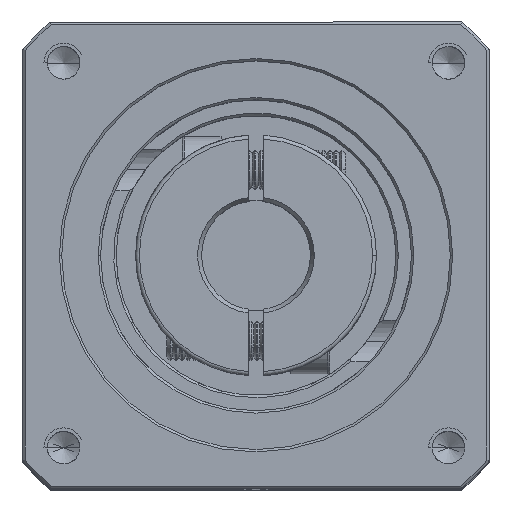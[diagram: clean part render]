
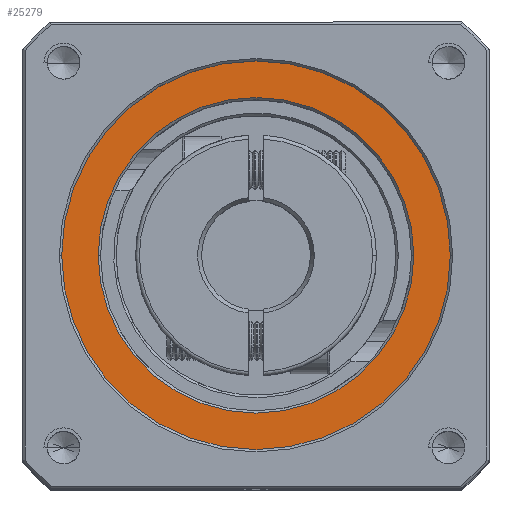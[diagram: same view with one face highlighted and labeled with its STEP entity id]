
A CAD part, top view. The second image highlights one B-rep face of the part: STEP entity #25279.
In plain terms, the highlighted planar face has unit normal (0, 0, 1).
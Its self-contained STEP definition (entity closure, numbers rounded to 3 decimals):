
#483 = EDGE_CURVE ( 'NONE', #69494, #32316, #69098, .T. ) ;
#498 = EDGE_LOOP ( 'NONE', ( #14369, #56297 ) ) ;
#4267 = CARTESIAN_POINT ( 'NONE',  ( -79.979, 25.271, 13.438 ) ) ;
#7106 = CARTESIAN_POINT ( 'NONE',  ( -59.679, 25.271, 13.438 ) ) ;
#7829 = EDGE_LOOP ( 'NONE', ( #49707, #15417 ) ) ;
#8766 = DIRECTION ( 'NONE',  ( 1., 0., 0. ) ) ;
#8817 = FACE_BOUND ( 'NONE', #498, .T. ) ;
#10689 = AXIS2_PLACEMENT_3D ( 'NONE', #84591, #58061, #50722 ) ;
#11418 = EDGE_CURVE ( 'NONE', #32316, #69494, #76535, .T. ) ;
#14369 = ORIENTED_EDGE ( 'NONE', *, *, #11418, .T. ) ;
#15417 = ORIENTED_EDGE ( 'NONE', *, *, #96360, .T. ) ;
#23863 = AXIS2_PLACEMENT_3D ( 'NONE', #102291, #84188, #8766 ) ;
#25279 = ADVANCED_FACE ( 'NONE', ( #8817, #48299 ), #104770, .T. ) ;
#27392 = CARTESIAN_POINT ( 'NONE',  ( -39.379, 25.271, 13.438 ) ) ;
#32316 = VERTEX_POINT ( 'NONE', #27392 ) ;
#32625 = CIRCLE ( 'NONE', #23863, 25. ) ;
#48210 = AXIS2_PLACEMENT_3D ( 'NONE', #85581, #93977, #86634 ) ;
#48299 = FACE_OUTER_BOUND ( 'NONE', #7829, .T. ) ;
#49422 = DIRECTION ( 'NONE',  ( 1., 0., 0. ) ) ;
#49707 = ORIENTED_EDGE ( 'NONE', *, *, #88048, .T. ) ;
#50532 = CARTESIAN_POINT ( 'NONE',  ( -84.679, 25.271, 13.438 ) ) ;
#50722 = DIRECTION ( 'NONE',  ( 1., 0., 0. ) ) ;
#56297 = ORIENTED_EDGE ( 'NONE', *, *, #483, .T. ) ;
#58061 = DIRECTION ( 'NONE',  ( 0., 0., -1. ) ) ;
#61605 = CARTESIAN_POINT ( 'NONE',  ( -59.679, 25.271, 13.438 ) ) ;
#62333 = DIRECTION ( 'NONE',  ( 0., 0., 1. ) ) ;
#67464 = DIRECTION ( 'NONE',  ( 0., 0., 1. ) ) ;
#69098 = CIRCLE ( 'NONE', #48210, 20.3 ) ;
#69494 = VERTEX_POINT ( 'NONE', #4267 ) ;
#71522 = DIRECTION ( 'NONE',  ( 1., 0., 0. ) ) ;
#76535 = CIRCLE ( 'NONE', #10689, 20.3 ) ;
#78474 = AXIS2_PLACEMENT_3D ( 'NONE', #7106, #67464, #49422 ) ;
#84188 = DIRECTION ( 'NONE',  ( 0., 0., 1. ) ) ;
#84591 = CARTESIAN_POINT ( 'NONE',  ( -59.679, 25.271, 13.438 ) ) ;
#85581 = CARTESIAN_POINT ( 'NONE',  ( -59.679, 25.271, 13.438 ) ) ;
#86634 = DIRECTION ( 'NONE',  ( 1., 0., 0. ) ) ;
#88048 = EDGE_CURVE ( 'NONE', #88423, #93127, #90936, .T. ) ;
#88386 = CARTESIAN_POINT ( 'NONE',  ( -34.679, 25.271, 13.438 ) ) ;
#88423 = VERTEX_POINT ( 'NONE', #88386 ) ;
#90936 = CIRCLE ( 'NONE', #78474, 25. ) ;
#93127 = VERTEX_POINT ( 'NONE', #50532 ) ;
#93977 = DIRECTION ( 'NONE',  ( 0., 0., -1. ) ) ;
#96360 = EDGE_CURVE ( 'NONE', #93127, #88423, #32625, .T. ) ;
#102291 = CARTESIAN_POINT ( 'NONE',  ( -59.679, 25.271, 13.438 ) ) ;
#104770 = PLANE ( 'NONE',  #107164 ) ;
#107164 = AXIS2_PLACEMENT_3D ( 'NONE', #61605, #62333, #71522 ) ;
